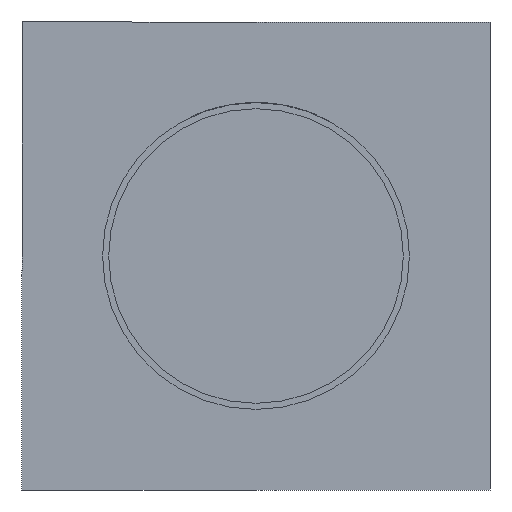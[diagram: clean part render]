
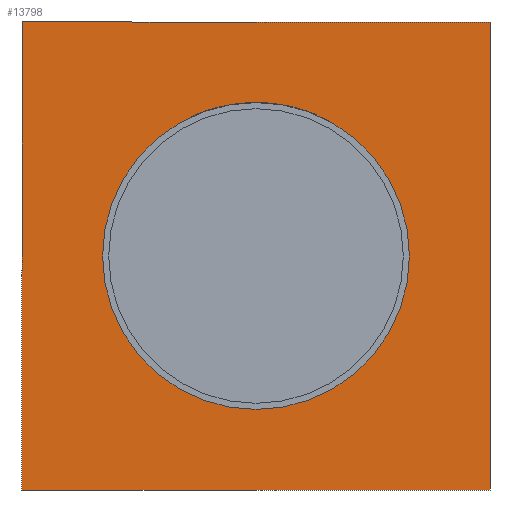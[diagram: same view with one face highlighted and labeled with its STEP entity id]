
A CAD part, front view. The second image highlights one B-rep face of the part: STEP entity #13798.
In plain terms, the highlighted planar face has unit normal (0, -1, 0).
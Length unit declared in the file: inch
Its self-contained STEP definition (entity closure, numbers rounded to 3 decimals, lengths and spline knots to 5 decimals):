
#13502=CARTESIAN_POINT('',(-2.,6.46,0.0));
#13503=VERTEX_POINT('',#13502);
#13504=CARTESIAN_POINT('',(0.0,6.46,0.0));
#13505=DIRECTION('',(0.0,1.0,0.0));
#13506=DIRECTION('',(-1.0,0.0,0.0));
#13507=AXIS2_PLACEMENT_3D('',#13504,#13505,#13506);
#13508=CIRCLE('',#13507,2.);
#13509=EDGE_CURVE('',#13503,#13503,#13508,.T.);
#13631=CARTESIAN_POINT('',(3.05,6.46,-3.05));
#13632=VERTEX_POINT('',#13631);
#13633=CARTESIAN_POINT('',(-3.05,6.46,-3.05));
#13634=VERTEX_POINT('',#13633);
#13635=CARTESIAN_POINT('',(3.05,6.46,-3.05));
#13636=DIRECTION('',(-1.0,0.0,0.0));
#13637=VECTOR('',#13636,6.1);
#13638=LINE('',#13635,#13637);
#13639=EDGE_CURVE('',#13632,#13634,#13638,.T.);
#13671=CARTESIAN_POINT('',(-3.05,6.46,3.05));
#13672=VERTEX_POINT('',#13671);
#13673=CARTESIAN_POINT('',(-3.05,6.46,-3.05));
#13674=DIRECTION('',(0.0,0.0,1.0));
#13675=VECTOR('',#13674,6.1);
#13676=LINE('',#13673,#13675);
#13677=EDGE_CURVE('',#13634,#13672,#13676,.T.);
#13702=CARTESIAN_POINT('',(3.05,6.46,3.05));
#13703=VERTEX_POINT('',#13702);
#13704=CARTESIAN_POINT('',(-3.05,6.46,3.05));
#13705=DIRECTION('',(1.0,0.0,0.0));
#13706=VECTOR('',#13705,6.1);
#13707=LINE('',#13704,#13706);
#13708=EDGE_CURVE('',#13672,#13703,#13707,.T.);
#13733=CARTESIAN_POINT('',(3.05,6.46,3.05));
#13734=DIRECTION('',(0.0,0.0,-1.0));
#13735=VECTOR('',#13734,6.1);
#13736=LINE('',#13733,#13735);
#13737=EDGE_CURVE('',#13703,#13632,#13736,.T.);
#13784=CARTESIAN_POINT('',(-2.525,6.46,0.0));
#13785=DIRECTION('',(0.0,-1.0,0.0));
#13786=DIRECTION('',(0.0,0.0,-1.0));
#13787=AXIS2_PLACEMENT_3D('',#13784,#13785,#13786);
#13788=PLANE('',#13787);
#13789=ORIENTED_EDGE('',*,*,#13677,.F.);
#13790=ORIENTED_EDGE('',*,*,#13639,.F.);
#13791=ORIENTED_EDGE('',*,*,#13737,.F.);
#13792=ORIENTED_EDGE('',*,*,#13708,.F.);
#13793=EDGE_LOOP('',(#13789,#13790,#13791,#13792));
#13794=FACE_OUTER_BOUND('',#13793,.T.);
#13795=ORIENTED_EDGE('',*,*,#13509,.T.);
#13796=EDGE_LOOP('',(#13795));
#13797=FACE_BOUND('',#13796,.T.);
#13798=ADVANCED_FACE('',(#13794,#13797),#13788,.T.);
